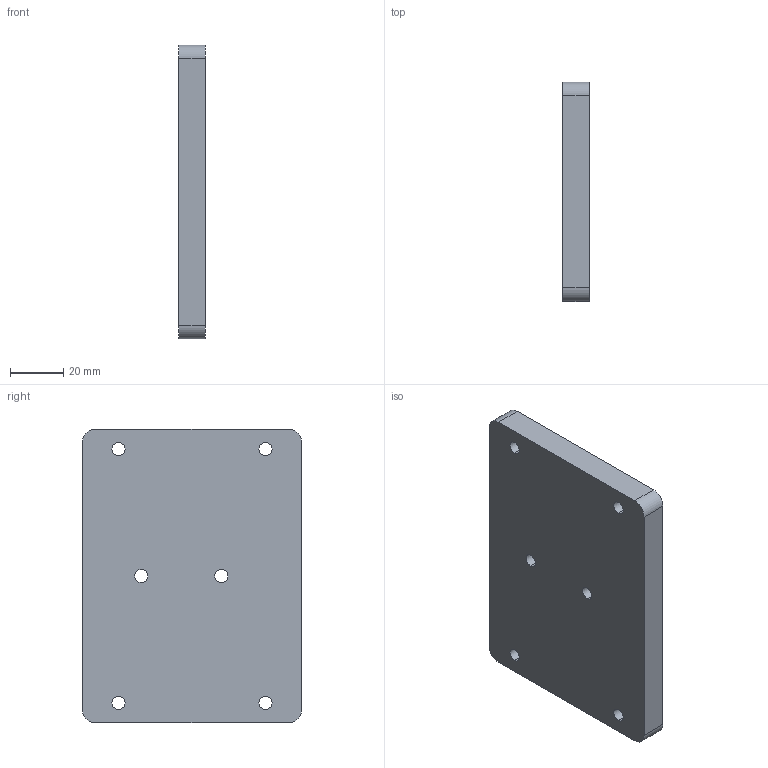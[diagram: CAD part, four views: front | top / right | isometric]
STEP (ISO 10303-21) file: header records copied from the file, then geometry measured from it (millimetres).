
FILE_DESCRIPTION (( 'STEP AP214' ), '1' );
FILE_NAME ('GZ30.18_V1撥揤ァ詰蟀諉啣.STEP', '2021-06-06T15:46:43', ( 'hp' ), ( '' ), 'SwSTEP 2.0', 'SolidWorks 2017', '' );
FILE_SCHEMA (( 'AUTOMOTIVE_DESIGN' ));
Length unit declared in the file: millimetre
Products named in the file (1): GZ30.18_V1撥揤ァ詰蟀諉啣
Bounding box: 10 x 82 x 110 mm (x, y, z)
Volume: 88846.1 mm3; surface area: 22450.2 mm2
Topology: 1 solids, 1 shells, 22 faces, 60 edges, 40 vertices
Faces by surface type: cylinder 16, plane 6
Entity records: 906 total; most frequent: DIRECTION 138, CARTESIAN_POINT 123, ORIENTED_EDGE 120, EDGE_CURVE 60, AXIS2_PLACEMENT_3D 55, VERTEX_POINT 40, EDGE_LOOP 34, CIRCLE 32
